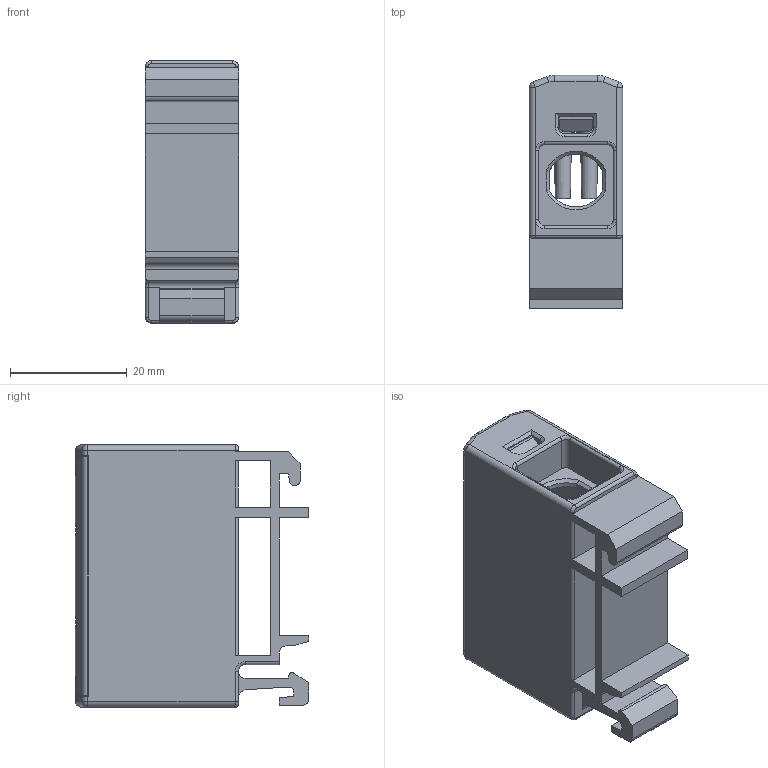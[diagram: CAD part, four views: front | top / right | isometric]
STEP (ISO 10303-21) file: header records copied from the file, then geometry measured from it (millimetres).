
FILE_DESCRIPTION((''),'2;1');
FILE_NAME('YIYITAO_ASM','2018-05-23T',('Administrator'),(''),'PRO/ENGINEER BY PARAMETRIC TECHNOLOGY CORPORATION, 2015240','PRO/ENGINEER BY PARAMETRIC TECHNOLOGY CORPORATION, 2015240','');
FILE_SCHEMA(('CONFIG_CONTROL_DESIGN'));
Length unit declared in the file: millimetre
Products named in the file (3): 1WEI; 1WEIGAI; YIYITAO_ASM
Assembly tree (2 placements, depth 2):
  YIYITAO_ASM
    1WEI
    1WEIGAI
Bounding box: 16 x 39.94 x 45 mm (x, y, z)
Volume: 8829.8 mm3; surface area: 12536.9 mm2
Topology: 2 solids, 2 shells, 282 faces, 741 edges, 466 vertices
Faces by surface type: plane 139, cylinder 89, torus 19, cone 16, bspline 11, sphere 8
Entity records: 9072 total; most frequent: CARTESIAN_POINT 1943, DIRECTION 1487, ORIENTED_EDGE 1482, EDGE_CURVE 741, AXIS2_PLACEMENT_3D 510, VECTOR 467, LINE 467, VERTEX_POINT 466
